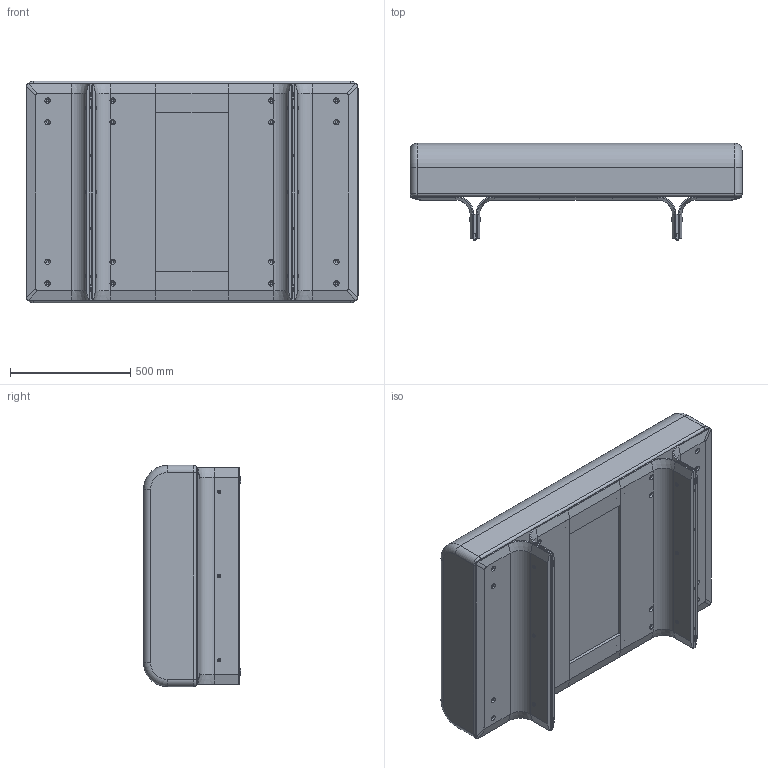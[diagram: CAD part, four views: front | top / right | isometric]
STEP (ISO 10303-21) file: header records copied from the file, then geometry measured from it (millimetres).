
FILE_DESCRIPTION (( 'STEP AP214' ), '1' );
FILE_NAME ('1380 pouff.STEP', '2024-06-05T12:46:52', ( '' ), ( '' ), 'SwSTEP 2.0', 'SolidWorks 2023', '' );
FILE_SCHEMA (( 'AUTOMOTIVE_DESIGN' ));
Length unit declared in the file: millimetre
Products named in the file (10): boccola_borchia M6; STAMI_SOFA_PLUS_BASE_ASSIEME_1380 CENTRALE o POUFF; BASE_FASCIA_COLLEGAMENTO_x_MODULARE_1380 CENTRALE; BASE_COMPONENTI_SEMIPONTE TERMINALE; BASE_DISTANZIALE_1cm; 20PT8X30N scivolo IPEA; 1380 pouff; SEDILE_1380 POUFF GOMMA VERIFICARE; BASE_COMPONENTI_SEMIPONTE CENTRALE; PIEDINO_L900
Assembly tree (28 placements, depth 3):
  1380 pouff
    STAMI_SOFA_PLUS_BASE_ASSIEME_1380 CENTRALE o POUFF
      BASE_DISTANZIALE_1cm  x2
      PIEDINO_L900  x2
      20PT8X30N scivolo IPEA  x4
      BASE_COMPONENTI_SEMIPONTE CENTRALE  x2
      BASE_COMPONENTI_SEMIPONTE TERMINALE  x2
      BASE_FASCIA_COLLEGAMENTO_x_MODULARE_1380 CENTRALE  x2
      boccola_borchia M6  x12
    SEDILE_1380 POUFF GOMMA VERIFICARE
Bounding box: 1380 x 404 x 920 mm (x, y, z)
Volume: 295447616.6 mm3; surface area: 7033826.2 mm2
Topology: 27 solids, 27 shells, 706 faces, 1672 edges, 1008 vertices
Faces by surface type: cylinder 312, plane 250, cone 88, torus 40, sphere 16
Entity records: 8030 total; most frequent: DIRECTION 1468, CARTESIAN_POINT 1342, ORIENTED_EDGE 1220, EDGE_CURVE 610, AXIS2_PLACEMENT_3D 578, VERTEX_POINT 376, EDGE_LOOP 318, VECTOR 312
